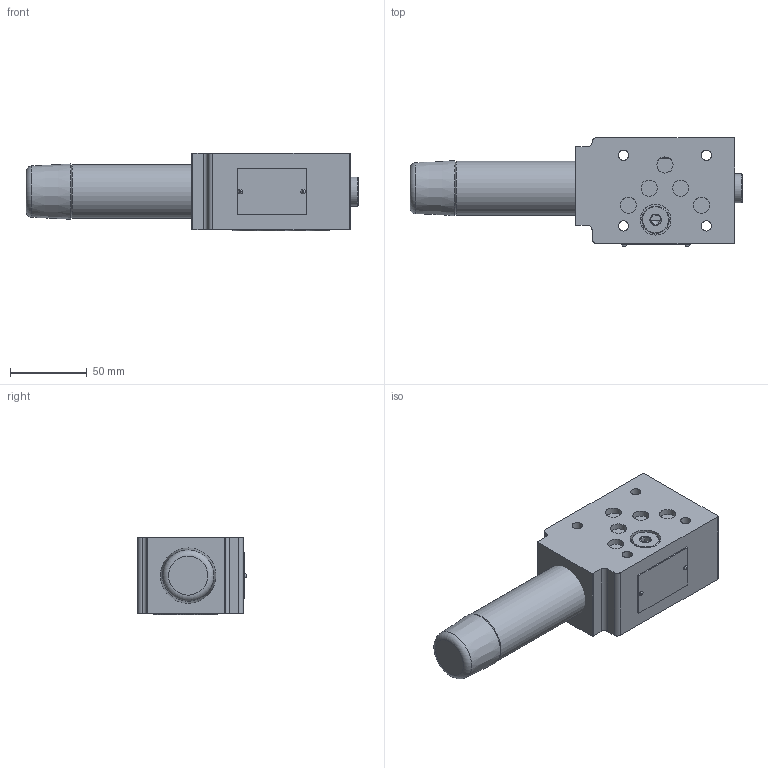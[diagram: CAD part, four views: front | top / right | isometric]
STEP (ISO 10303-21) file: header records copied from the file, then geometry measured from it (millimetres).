
FILE_DESCRIPTION(/* description */ (''),/* implementation_level */ '2;1');
FILE_NAME(/* name */ 'ZDR10DA-5XJ...Y叠加式减压阀.stp',/* time_stamp */ '2023-02-09T13:39:02+08:00',/* author */ (''),/* organization */ (''),/* preprocessor_version */ 'ST-DEVELOPER v16.7',/* originating_system */ 'SIEMENS PLM Software NX 12.0',/* authorisation */ '');
FILE_SCHEMA (('AUTOMOTIVE_DESIGN { 1 0 10303 214 3 1 1 1 }'));
Products named in the file (1): ZDR10DA-5XJ...Y叠加式减压阀
Bounding box: 216.28 x 70.8 x 50.5 mm (x, y, z)
Volume: 373413 mm3; surface area: 84629.9 mm2
Topology: 18 solids, 19 shells, 449 faces, 1069 edges, 683 vertices
Faces by surface type: plane 153, cylinder 149, bspline 68, cone 45, torus 29, sphere 5
Full cylindrical faces by diameter (mm): 0.8 x1, 1 x2, 1.8 x2, 1.9 x2, 2 x2, 4.3 x1, 6 x1, 6.7 x4, 8 x1, 8.4 x1, 10.5 x10, 11.093 x1, 11.1 x1, 11.5 x7, 12.3 x1, 12.4 x1, 15 x1, 15.7 x5, 16.2 x2, 17.9 x1, 18 x1, 18.3 x1, 18.9 x1, 20 x1, 20.5 x1, 22 x1, 22.5 x1, 26.5 x1, 28.5 x2, 31.6 x1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
Entity records: 88341 total; most frequent: CARTESIAN_POINT 79188, ORIENTED_EDGE 1802, DIRECTION 1682, EDGE_CURVE 901, AXIS2_PLACEMENT_3D 702, VERTEX_POINT 642, EDGE_LOOP 595, ADVANCED_FACE 441
